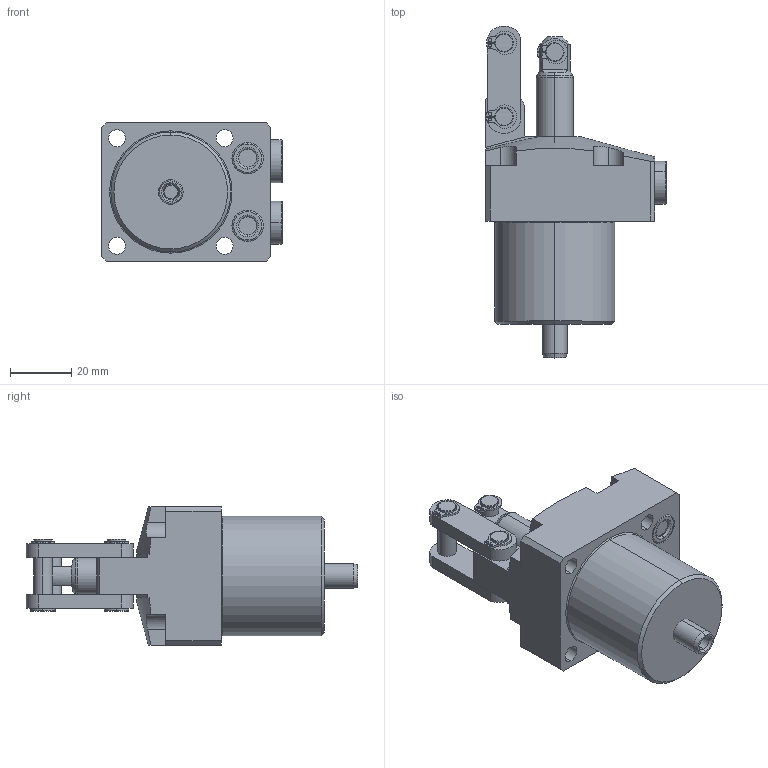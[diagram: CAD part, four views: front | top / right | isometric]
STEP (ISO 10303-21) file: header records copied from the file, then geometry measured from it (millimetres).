
FILE_DESCRIPTION(/* description */ (''),/* implementation_level */ '2;1');
FILE_NAME(/* name */ 'TPC02-FD.stp',/* time_stamp */ '2025-01-05T10:21:31+08:00',/* author */ (''),/* organization */ (''),/* preprocessor_version */ 'ST-DEVELOPER v16.7',/* originating_system */ 'SIEMENS PLM Software NX 12.0',/* authorisation */ '');
FILE_SCHEMA (('AUTOMOTIVE_DESIGN { 1 0 10303 214 3 1 1 1 }'));
Length unit declared in the file: millimetre
Products named in the file (5): TPC02-FD-04; TPC02-FD-03; TPC02-FD-02; TPC02-FD-01; TPC02-FD_stp
Assembly tree (5 placements, depth 2):
  TPC02-FD_stp
    TPC02-FD-01
    TPC02-FD-02
    TPC02-FD-03
    TPC02-FD-04  x2
Bounding box: 58.8 x 107.98 x 45 mm (x, y, z)
Volume: 105441.6 mm3; surface area: 26147.1 mm2
Topology: 5 solids, 7 shells, 309 faces, 733 edges, 464 vertices
Faces by surface type: cylinder 128, plane 120, torus 34, cone 25, extrusion 2
Entity records: 8698 total; most frequent: CARTESIAN_POINT 1663, DIRECTION 1549, ORIENTED_EDGE 1374, EDGE_CURVE 687, AXIS2_PLACEMENT_3D 617, VERTEX_POINT 436, EDGE_LOOP 333, CIRCLE 326
